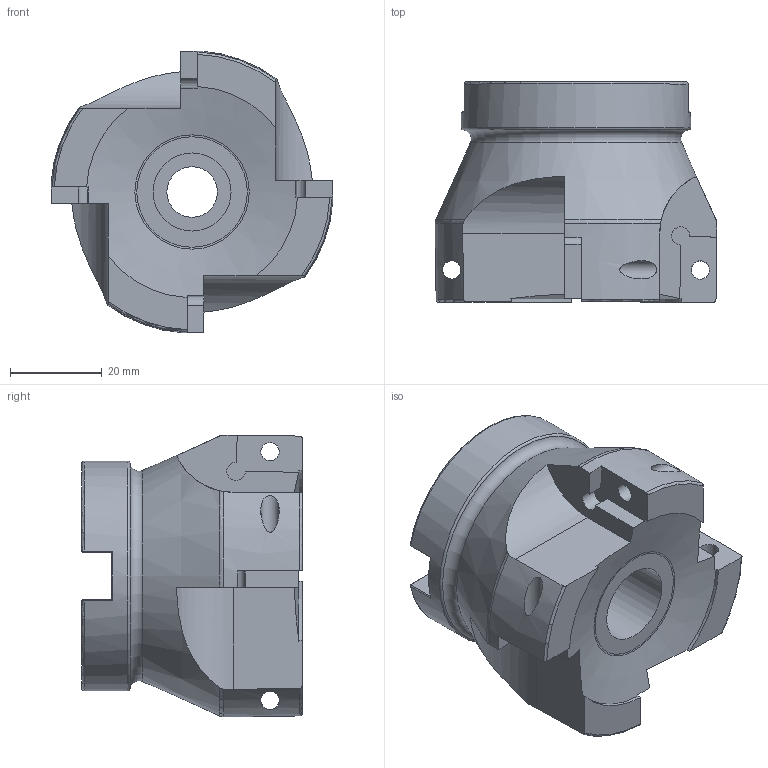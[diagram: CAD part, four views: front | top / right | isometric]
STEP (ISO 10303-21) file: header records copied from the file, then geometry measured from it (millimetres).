
FILE_DESCRIPTION(/* description */ (''),/* implementation_level */ '2;1');
FILE_NAME(/* name */ 'X:\Проектный отдел\Слава\STEP\BAP400R-63-22-4T.stp',/* time_stamp */ '2022-07-28T09:57:33+03:00',/* author */ ('Евгений'),/* organization */ (''),/* preprocessor_version */ 'ST-DEVELOPER v18',/* originating_system */ 'Autodesk Inventor 2020',/* authorisation */ '');
FILE_SCHEMA (('AUTOMOTIVE_DESIGN { 1 0 10303 214 3 1 1 }'));
Length unit declared in the file: millimetre
Products named in the file (1): BAP400R-63-22-4T
Bounding box: 61.43 x 48 x 61.4 mm (x, y, z)
Volume: 79717.1 mm3; surface area: 16748.8 mm2
Topology: 1 solids, 1 shells, 106 faces, 318 edges, 215 vertices
Faces by surface type: plane 49, cylinder 20, torus 13, cone 12, bspline 12
Full cylindrical faces by diameter (mm): 4 x4, 11 x1, 17 x1, 22 x1, 50 x1
Entity records: 4241 total; most frequent: CARTESIAN_POINT 1510, ORIENTED_EDGE 636, DIRECTION 490, EDGE_CURVE 318, VERTEX_POINT 215, AXIS2_PLACEMENT_3D 190, EDGE_LOOP 117, LINE 110
